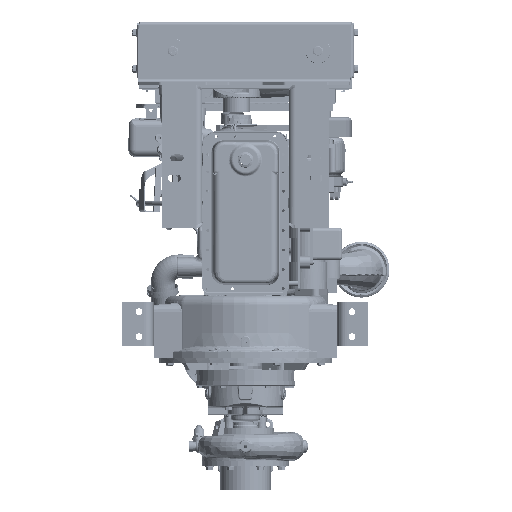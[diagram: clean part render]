
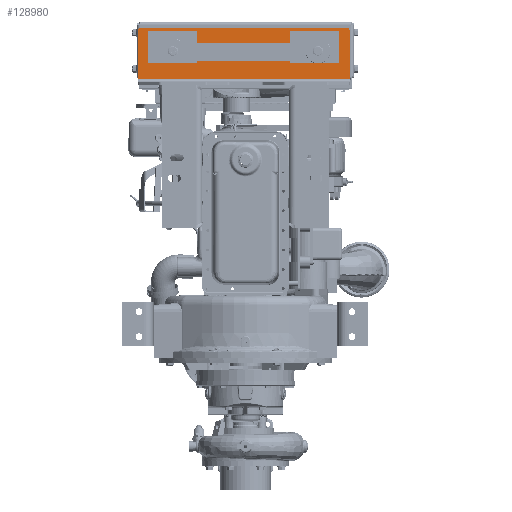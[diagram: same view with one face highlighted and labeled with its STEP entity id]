
A CAD part, front view. The second image highlights one B-rep face of the part: STEP entity #128980.
In plain terms, the highlighted planar face has unit normal (0, -1, 0).
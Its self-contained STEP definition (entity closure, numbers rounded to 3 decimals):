
#6122 = DIRECTION ( 'NONE',  ( -1., 0., 0. ) ) ;
#8365 = VERTEX_POINT ( 'NONE', #368786 ) ;
#10838 = DIRECTION ( 'NONE',  ( 0., 1., 0. ) ) ;
#11105 = CIRCLE ( 'NONE', #724692, 0.625 ) ;
#25160 = CARTESIAN_POINT ( 'NONE',  ( 5.82, -4.72, 20.51 ) ) ;
#33867 = FACE_BOUND ( 'NONE', #362607, .T. ) ;
#42068 = VECTOR ( 'NONE', #123592, 39.37 ) ;
#42812 = DIRECTION ( 'NONE',  ( -1., 0., 0. ) ) ;
#48218 = DIRECTION ( 'NONE',  ( 0., -1., 0. ) ) ;
#55682 = EDGE_CURVE ( 'NONE', #631377, #716374, #676784, .T. ) ;
#56215 = VECTOR ( 'NONE', #334088, 39.37 ) ;
#68606 = EDGE_CURVE ( 'NONE', #386625, #651350, #412375, .T. ) ;
#78416 = EDGE_LOOP ( 'NONE', ( #419322, #83759, #706621, #232679, #365503, #299497 ) ) ;
#79143 = DIRECTION ( 'NONE',  ( -1., 0., 0. ) ) ;
#80066 = AXIS2_PLACEMENT_3D ( 'NONE', #400059, #238852, #462160 ) ;
#83759 = ORIENTED_EDGE ( 'NONE', *, *, #519703, .T. ) ;
#91190 = ORIENTED_EDGE ( 'NONE', *, *, #371697, .T. ) ;
#98718 = EDGE_CURVE ( 'NONE', #606220, #403517, #627131, .T. ) ;
#115338 = VECTOR ( 'NONE', #6122, 39.37 ) ;
#122910 = CARTESIAN_POINT ( 'NONE',  ( -6.08, -4.72, 20.51 ) ) ;
#123592 = DIRECTION ( 'NONE',  ( 0., 0., 1. ) ) ;
#124703 = CARTESIAN_POINT ( 'NONE',  ( -5.83, -4.72, 19.26 ) ) ;
#125480 = CARTESIAN_POINT ( 'NONE',  ( 8.37, -4.72, 17.34 ) ) ;
#127216 = CARTESIAN_POINT ( 'NONE',  ( -8.63, -4.72, 17.34 ) ) ;
#128980 = ADVANCED_FACE ( 'NONE', ( #33867, #312205, #597658 ), #377955, .T. ) ;
#130833 = CARTESIAN_POINT ( 'NONE',  ( 8.37, -4.72, 21.189 ) ) ;
#134214 = EDGE_CURVE ( 'NONE', #386625, #620313, #400186, .T. ) ;
#136451 = DIRECTION ( 'NONE',  ( 1., 0., 0. ) ) ;
#144072 = CARTESIAN_POINT ( 'NONE',  ( 5.57, -4.72, 19.26 ) ) ;
#147844 = VECTOR ( 'NONE', #239020, 39.37 ) ;
#158124 = EDGE_CURVE ( 'NONE', #8365, #174940, #456484, .T. ) ;
#174940 = VERTEX_POINT ( 'NONE', #122910 ) ;
#182906 = DIRECTION ( 'NONE',  ( 0., 0., -1. ) ) ;
#199580 = CIRCLE ( 'NONE', #398167, 0.625 ) ;
#202869 = VERTEX_POINT ( 'NONE', #344148 ) ;
#206058 = VECTOR ( 'NONE', #348838, 39.37 ) ;
#208401 = CIRCLE ( 'NONE', #289924, 0.25 ) ;
#215622 = ORIENTED_EDGE ( 'NONE', *, *, #158124, .F. ) ;
#224196 = LINE ( 'NONE', #286352, #56215 ) ;
#224893 = AXIS2_PLACEMENT_3D ( 'NONE', #638053, #249930, #136451 ) ;
#232075 = ORIENTED_EDGE ( 'NONE', *, *, #98718, .F. ) ;
#232679 = ORIENTED_EDGE ( 'NONE', *, *, #68606, .F. ) ;
#238852 = DIRECTION ( 'NONE',  ( 0., 1., 0. ) ) ;
#239020 = DIRECTION ( 'NONE',  ( 1., 0., 0. ) ) ;
#249930 = DIRECTION ( 'NONE',  ( 0., -1., 0. ) ) ;
#253632 = CARTESIAN_POINT ( 'NONE',  ( 5.57, -4.72, 20.51 ) ) ;
#269959 = ORIENTED_EDGE ( 'NONE', *, *, #55682, .T. ) ;
#286352 = CARTESIAN_POINT ( 'NONE',  ( -8.38, -4.72, 21.439 ) ) ;
#288163 = EDGE_CURVE ( 'NONE', #606220, #174940, #199580, .T. ) ;
#289924 = AXIS2_PLACEMENT_3D ( 'NONE', #317092, #540369, #430534 ) ;
#299497 = ORIENTED_EDGE ( 'NONE', *, *, #673570, .T. ) ;
#302341 = CIRCLE ( 'NONE', #80066, 0.625 ) ;
#304783 = CARTESIAN_POINT ( 'NONE',  ( -6.08, -4.72, 19.26 ) ) ;
#312205 = FACE_BOUND ( 'NONE', #550148, .T. ) ;
#316137 = DIRECTION ( 'NONE',  ( 0., 1., 0. ) ) ;
#317092 = CARTESIAN_POINT ( 'NONE',  ( -8.38, -4.72, 21.189 ) ) ;
#321221 = LINE ( 'NONE', #485958, #413637 ) ;
#329107 = CARTESIAN_POINT ( 'NONE',  ( -6.08, -4.72, 19.26 ) ) ;
#334088 = DIRECTION ( 'NONE',  ( 1., 0., 0. ) ) ;
#344148 = CARTESIAN_POINT ( 'NONE',  ( -8.63, -4.72, 21.189 ) ) ;
#348838 = DIRECTION ( 'NONE',  ( 0., 0., 1. ) ) ;
#349585 = CARTESIAN_POINT ( 'NONE',  ( 8.37, -4.72, 17.34 ) ) ;
#360768 = VERTEX_POINT ( 'NONE', #482936 ) ;
#362607 = EDGE_LOOP ( 'NONE', ( #91190, #562943, #269959, #640822 ) ) ;
#365503 = ORIENTED_EDGE ( 'NONE', *, *, #134214, .T. ) ;
#368786 = CARTESIAN_POINT ( 'NONE',  ( -5.83, -4.72, 20.51 ) ) ;
#371697 = EDGE_CURVE ( 'NONE', #501701, #648357, #11105, .T. ) ;
#377955 = PLANE ( 'NONE',  #601793 ) ;
#386625 = VERTEX_POINT ( 'NONE', #349585 ) ;
#397043 = DIRECTION ( 'NONE',  ( 0., 1., 0. ) ) ;
#398167 = AXIS2_PLACEMENT_3D ( 'NONE', #484467, #316137, #525019 ) ;
#400059 = CARTESIAN_POINT ( 'NONE',  ( -5.83, -4.72, 19.885 ) ) ;
#400186 = LINE ( 'NONE', #125480, #206058 ) ;
#403517 = VERTEX_POINT ( 'NONE', #124703 ) ;
#412375 = LINE ( 'NONE', #646553, #681849 ) ;
#413637 = VECTOR ( 'NONE', #42812, 39.37 ) ;
#419322 = ORIENTED_EDGE ( 'NONE', *, *, #583059, .F. ) ;
#422067 = CARTESIAN_POINT ( 'NONE',  ( 8.37, -4.72, 21.439 ) ) ;
#425760 = EDGE_CURVE ( 'NONE', #501701, #716374, #437298, .T. ) ;
#430534 = DIRECTION ( 'NONE',  ( 0., 0., 1. ) ) ;
#437298 = LINE ( 'NONE', #594895, #438470 ) ;
#438470 = VECTOR ( 'NONE', #708404, 39.37 ) ;
#456484 = LINE ( 'NONE', #569926, #115338 ) ;
#460398 = LINE ( 'NONE', #127216, #42068 ) ;
#462160 = DIRECTION ( 'NONE',  ( 0., 0., 1. ) ) ;
#462764 = DIRECTION ( 'NONE',  ( 0., 0., 1. ) ) ;
#473313 = EDGE_CURVE ( 'NONE', #8365, #403517, #302341, .T. ) ;
#482936 = CARTESIAN_POINT ( 'NONE',  ( 8.12, -4.72, 21.439 ) ) ;
#484467 = CARTESIAN_POINT ( 'NONE',  ( -6.08, -4.72, 19.885 ) ) ;
#485958 = CARTESIAN_POINT ( 'NONE',  ( 5.82, -4.72, 20.51 ) ) ;
#501701 = VERTEX_POINT ( 'NONE', #144072 ) ;
#509392 = EDGE_CURVE ( 'NONE', #631377, #648357, #321221, .T. ) ;
#513128 = AXIS2_PLACEMENT_3D ( 'NONE', #631179, #397043, #462764 ) ;
#519703 = EDGE_CURVE ( 'NONE', #583348, #202869, #208401, .T. ) ;
#525019 = DIRECTION ( 'NONE',  ( 0., 0., -1. ) ) ;
#528524 = CIRCLE ( 'NONE', #224893, 0.25 ) ;
#531424 = CARTESIAN_POINT ( 'NONE',  ( -8.38, -4.72, 21.439 ) ) ;
#540369 = DIRECTION ( 'NONE',  ( 0., -1., 0. ) ) ;
#550148 = EDGE_LOOP ( 'NONE', ( #706222, #215622, #616368, #232075 ) ) ;
#562943 = ORIENTED_EDGE ( 'NONE', *, *, #509392, .F. ) ;
#569926 = CARTESIAN_POINT ( 'NONE',  ( -5.83, -4.72, 20.51 ) ) ;
#583059 = EDGE_CURVE ( 'NONE', #583348, #360768, #224196, .T. ) ;
#583348 = VERTEX_POINT ( 'NONE', #531424 ) ;
#594895 = CARTESIAN_POINT ( 'NONE',  ( 5.57, -4.72, 19.26 ) ) ;
#597658 = FACE_OUTER_BOUND ( 'NONE', #78416, .T. ) ;
#601793 = AXIS2_PLACEMENT_3D ( 'NONE', #422067, #48218, #645395 ) ;
#606220 = VERTEX_POINT ( 'NONE', #329107 ) ;
#616368 = ORIENTED_EDGE ( 'NONE', *, *, #473313, .T. ) ;
#619011 = CARTESIAN_POINT ( 'NONE',  ( -8.63, -4.72, 17.34 ) ) ;
#620313 = VERTEX_POINT ( 'NONE', #130833 ) ;
#627131 = LINE ( 'NONE', #304783, #147844 ) ;
#631179 = CARTESIAN_POINT ( 'NONE',  ( 5.82, -4.72, 19.885 ) ) ;
#631377 = VERTEX_POINT ( 'NONE', #25160 ) ;
#638053 = CARTESIAN_POINT ( 'NONE',  ( 8.12, -4.72, 21.189 ) ) ;
#640822 = ORIENTED_EDGE ( 'NONE', *, *, #425760, .F. ) ;
#645395 = DIRECTION ( 'NONE',  ( 0., 0., -1. ) ) ;
#646553 = CARTESIAN_POINT ( 'NONE',  ( 8.37, -4.72, 17.34 ) ) ;
#648357 = VERTEX_POINT ( 'NONE', #253632 ) ;
#651350 = VERTEX_POINT ( 'NONE', #619011 ) ;
#653880 = EDGE_CURVE ( 'NONE', #651350, #202869, #460398, .T. ) ;
#673570 = EDGE_CURVE ( 'NONE', #620313, #360768, #528524, .T. ) ;
#676784 = CIRCLE ( 'NONE', #513128, 0.625 ) ;
#680945 = CARTESIAN_POINT ( 'NONE',  ( 5.57, -4.72, 19.885 ) ) ;
#681849 = VECTOR ( 'NONE', #79143, 39.37 ) ;
#706222 = ORIENTED_EDGE ( 'NONE', *, *, #288163, .T. ) ;
#706621 = ORIENTED_EDGE ( 'NONE', *, *, #653880, .F. ) ;
#708390 = CARTESIAN_POINT ( 'NONE',  ( 5.82, -4.72, 19.26 ) ) ;
#708404 = DIRECTION ( 'NONE',  ( 1., 0., 0. ) ) ;
#716374 = VERTEX_POINT ( 'NONE', #708390 ) ;
#724692 = AXIS2_PLACEMENT_3D ( 'NONE', #680945, #10838, #182906 ) ;
